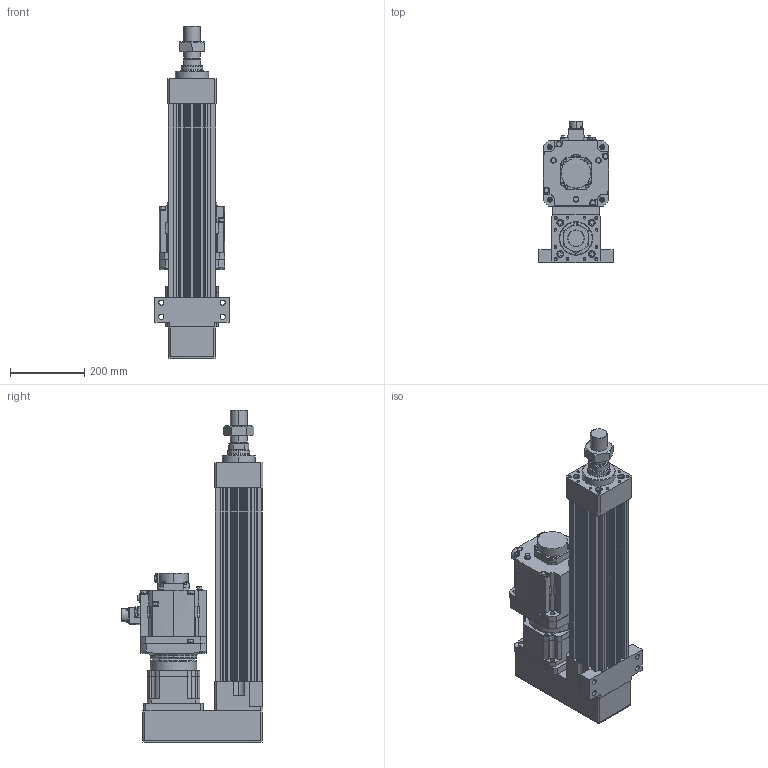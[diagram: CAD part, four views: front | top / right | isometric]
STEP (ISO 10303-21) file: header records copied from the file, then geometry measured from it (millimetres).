
FILE_DESCRIPTION (( 'STEP AP203' ), '1' );
FILE_NAME ('HES130NS(FS)(HS)-P300-W020G00-M-FFC.STEP', '2026-06-10T06:11:41', ( 'tms' ), ( '' ), 'SwSTEP 2.0', 'SolidWorks 2013', '' );
FILE_SCHEMA (( 'CONFIG_CONTROL_DESIGN' ));
Length unit declared in the file: millimetre
Products named in the file (9): AB1422; HES130-P-G142; AB1421; AB1423; HES130-FFC-300; HG-SR202B; HES130-M-ROD-300; M45X1.5P; HES130NS(FS)(HS)-P300-W020G00-M-FFC
Assembly tree (8 placements, depth 2):
  HES130NS(FS)(HS)-P300-W020G00-M-FFC
    HES130-FFC-300
    HES130-M-ROD-300
    M45X1.5P
    HES130-P-G142
    AB1421
    AB1422
    AB1423
    HG-SR202B
Bounding box: 200 x 381.85 x 894 mm (x, y, z)
Volume: 13396172.5 mm3; surface area: 1559164.6 mm2
Topology: 5 solids, 19 shells, 1533 faces, 3980 edges, 2570 vertices
Faces by surface type: cylinder 698, plane 585, cone 168, bspline 76, torus 6
Entity records: 55808 total; most frequent: CARTESIAN_POINT 16861, DIRECTION 8168, ORIENTED_EDGE 7838, EDGE_CURVE 3941, AXIS2_PLACEMENT_3D 3094, VERTEX_POINT 2570, VECTOR 1980, LINE 1980
